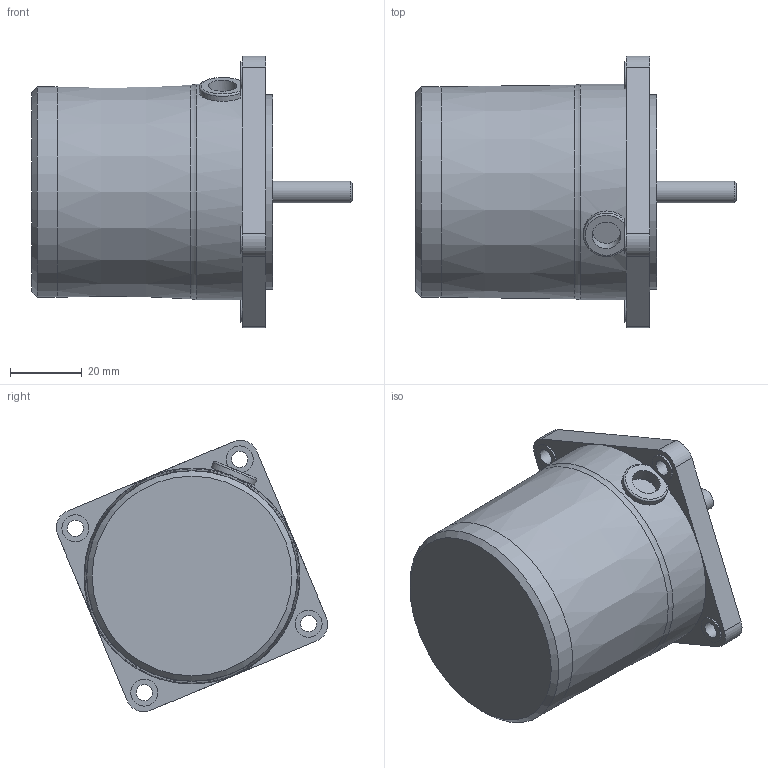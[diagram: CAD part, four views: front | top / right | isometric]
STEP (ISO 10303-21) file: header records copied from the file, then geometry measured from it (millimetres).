
FILE_DESCRIPTION((''),'2;1');
FILE_NAME('D:\STP파일\3W MOTOR\S6I03S.stp','2013-05-20T15:43:14',('leebh'),(''),'Autodesk Inventor 2011','Autodesk Inventor 2011','');
FILE_SCHEMA(('AUTOMOTIVE_DESIGN { 1 0 10303 214 1 1 1 1 }'));
Length unit declared in the file: millimetre
Products named in the file (1): 부품1
Bounding box: 89 x 75.43 x 75.43 mm (x, y, z)
Volume: 182672.9 mm3; surface area: 21755.8 mm2
Topology: 1 solids, 2 shells, 71 faces, 178 edges, 116 vertices
Faces by surface type: plane 37, cylinder 29, cone 3, torus 2
Full cylindrical faces by diameter (mm): 4.5 x4, 6 x1, 7.5 x4, 8 x1, 10.1 x1, 25 x1, 54 x1, 58.5 x1, 60 x1
Entity records: 2119 total; most frequent: CARTESIAN_POINT 399, DIRECTION 364, ORIENTED_EDGE 314, EDGE_CURVE 157, AXIS2_PLACEMENT_3D 142, VERTEX_POINT 114, EDGE_LOOP 109, VECTOR 80
